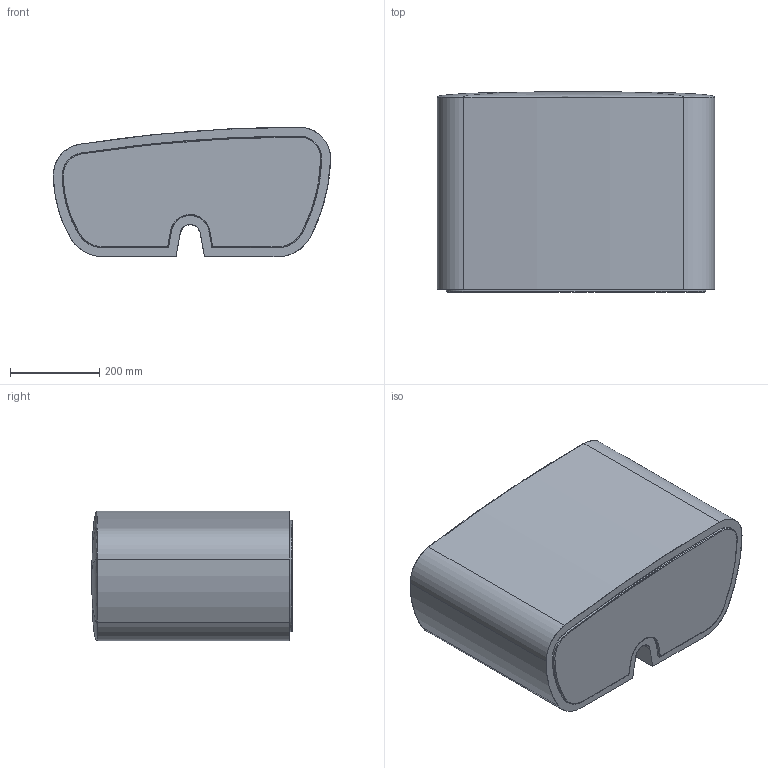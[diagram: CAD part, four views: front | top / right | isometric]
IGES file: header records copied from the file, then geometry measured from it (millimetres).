
Start section: SolidWorks IGES file using analytic representation for surfaces
Global section: file name: N:\OT\OFICINA TECNICA\TECNICO DEFINITIVO\NOMON HOME\3D NOMON HOME\MOMENTOS\TOCADOR\POUF.IGS; native system: SolidWorks 2016; preprocessor: SolidWorks 2016; author: Usuario; date: 171009.092901; units: millimetre
Bounding box: 620.01 x 448 x 290 mm (x, y, z)
Surface area: 1059129.8 mm2 (no closed solid volume)
Topology: 0 solids, 0 shells, 49 faces, 546 edges, 538 vertices
Faces by surface type: bspline 26, revolution 23
